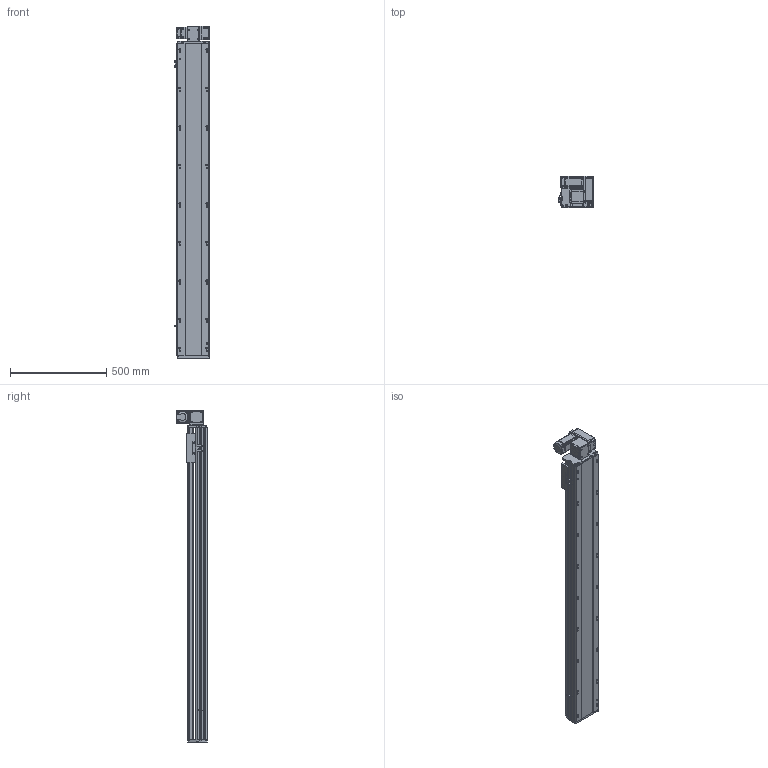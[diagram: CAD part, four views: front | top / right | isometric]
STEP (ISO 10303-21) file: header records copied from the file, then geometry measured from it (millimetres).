
FILE_DESCRIPTION (( 'STEP AP214' ), '1' );
FILE_NAME ('RTB17S-XX-1350-RW-M40-C4.STEP', '2025-12-11T09:03:00', ( '' ), ( '' ), 'SwSTEP 2.0', 'SolidWorks 2018', '' );
FILE_SCHEMA (( 'AUTOMOTIVE_DESIGN' ));
Length unit declared in the file: millimetre
Products named in the file (14): RTB14-L-018P^RTB17S-RW-々湍釱蚾饜-400W_RTB17S-XX-XX-RW-M40-C4; RTH13-BL-012覜茼え俋离^RTB17S-XX-XX-RW-M40-C4; 400W侜督萇儂^RTB17S-XX-XX-RW-M40-C4; OMRON EE-SX672 传感器^RTB17S-XX-XX-RW-M40-C4; RTB17-R-011菁釱^RTB17S-XX-XX-RW-M40-C4; RTB17S-RW-々湍釱蚾饜-400W^RTB17S-XX-XX-RW-M40-C4; RTB17S-XX-1350-RW-M40-C4; RTB14-L-017P^RTB17S-RW-々湍釱蚾饜-400W_RTB17S-XX-XX-RW-M40-C4; RTB17S-L-001耜醱啣^RTB17S-XX-XX-RW-M40-C4; RTB17S-L-004佪裝蹟譫蟀諉釱^RTB17S-XX-XX-RW-M40-C4; RTB14-L-008-M20--萇儂啣^RTB17S-RW-々湍釱蚾饜-400W_RTB17S-XX-XX-RW-M40-C4; RMP17S-L-014-T20--々湍釱^RTB17S-RW-々湍釱蚾饜-400W_RTB17S-XX-XX-RW-M40-C4; RTB17S-L-007奻裔^RTB17S-XX-XX-RW-M40-C4; RTB14-L-005P--轴承塑胶压盖^RTB17S-RW-皮带座装配-400W_RTB17S-XX-XX-RW-M40-C4
Assembly tree (16 placements, depth 3):
  RTB17S-XX-1350-RW-M40-C4
    RTB17-R-011菁釱^RTB17S-XX-XX-RW-M40-C4
    RTB17S-L-007奻裔^RTB17S-XX-XX-RW-M40-C4
    OMRON EE-SX672 传感器^RTB17S-XX-XX-RW-M40-C4  x3
    RTB17S-L-001耜醱啣^RTB17S-XX-XX-RW-M40-C4
    400W侜督萇儂^RTB17S-XX-XX-RW-M40-C4
    RTB17S-L-004佪裝蹟譫蟀諉釱^RTB17S-XX-XX-RW-M40-C4
    RTH13-BL-012覜茼え俋离^RTB17S-XX-XX-RW-M40-C4
    RTB17S-RW-々湍釱蚾饜-400W^RTB17S-XX-XX-RW-M40-C4
      RMP17S-L-014-T20--々湍釱^RTB17S-RW-々湍釱蚾饜-400W_RTB17S-XX-XX-RW-M40-C4
      RTB14-L-005P--轴承塑胶压盖^RTB17S-RW-皮带座装配-400W_RTB17S-XX-XX-RW-M40-C4
      RTB14-L-008-M20--萇儂啣^RTB17S-RW-々湍釱蚾饜-400W_RTB17S-XX-XX-RW-M40-C4
      RTB14-L-017P^RTB17S-RW-々湍釱蚾饜-400W_RTB17S-XX-XX-RW-M40-C4  x2
      RTB14-L-018P^RTB17S-RW-々湍釱蚾饜-400W_RTB17S-XX-XX-RW-M40-C4
Bounding box: 183.5 x 160.5 x 1722.5 mm (x, y, z)
Volume: 15228583 mm3; surface area: 1809316.8 mm2
Topology: 15 solids, 15 shells, 2237 faces, 6195 edges, 4041 vertices
Faces by surface type: plane 1072, cylinder 717, bspline 301, cone 139, torus 8
Entity records: 64169 total; most frequent: CARTESIAN_POINT 18000, ORIENTED_EDGE 9234, DIRECTION 8576, EDGE_CURVE 4617, VERTEX_POINT 3029, AXIS2_PLACEMENT_3D 2959, VECTOR 2658, LINE 2658
